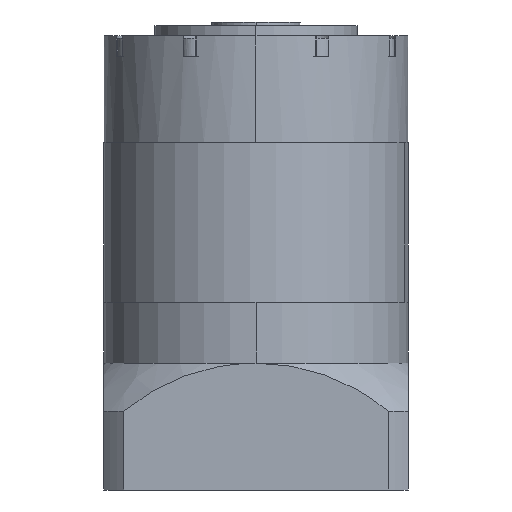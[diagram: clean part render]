
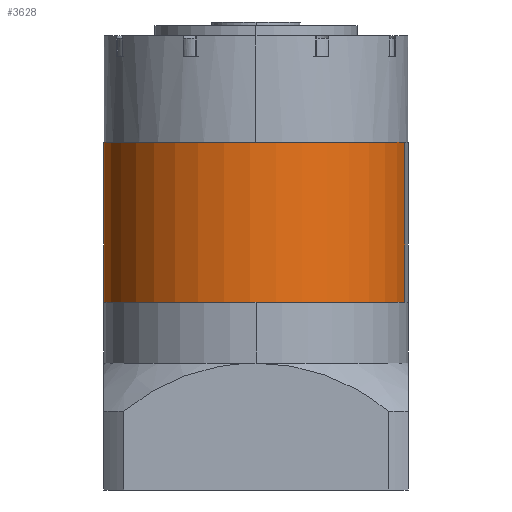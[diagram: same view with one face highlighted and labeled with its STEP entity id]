
A CAD part, left-side view. The second image highlights one B-rep face of the part: STEP entity #3628.
In plain terms, the highlighted cylindrical face has radius 60 mm (diameter 120 mm), a partial arc.
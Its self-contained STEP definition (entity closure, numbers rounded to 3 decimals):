
#611 = ORIENTED_EDGE ( 'NONE', *, *, #33504, .T. ) ;
#801 = LINE ( 'NONE', #33968, #9340 ) ;
#2424 = CARTESIAN_POINT ( 'NONE',  ( 0., 60., -31.5 ) ) ;
#3628 = ADVANCED_FACE ( 'NONE', ( #17617 ), #16620, .T. ) ;
#4987 = CARTESIAN_POINT ( 'NONE',  ( 0., 60., 31.5 ) ) ;
#5732 = DIRECTION ( 'NONE',  ( 0., 0., -1. ) ) ;
#8474 = ORIENTED_EDGE ( 'NONE', *, *, #39772, .T. ) ;
#9340 = VECTOR ( 'NONE', #27558, 1000. ) ;
#12985 = CARTESIAN_POINT ( 'NONE',  ( 0., 0., -31.5 ) ) ;
#13035 = ORIENTED_EDGE ( 'NONE', *, *, #36342, .T. ) ;
#14549 = CARTESIAN_POINT ( 'NONE',  ( 0., 0., 31.5 ) ) ;
#16209 = DIRECTION ( 'NONE',  ( 0., 1., 0. ) ) ;
#16620 = CYLINDRICAL_SURFACE ( 'NONE', #36700, 60. ) ;
#16969 = CIRCLE ( 'NONE', #39963, 60. ) ;
#17617 = FACE_OUTER_BOUND ( 'NONE', #28290, .T. ) ;
#17745 = DIRECTION ( 'NONE',  ( 0., 1., 0. ) ) ;
#18245 = ORIENTED_EDGE ( 'NONE', *, *, #25452, .F. ) ;
#18447 = DIRECTION ( 'NONE',  ( 0., 1., 0. ) ) ;
#18901 = CIRCLE ( 'NONE', #33695, 60. ) ;
#20118 = VERTEX_POINT ( 'NONE', #2424 ) ;
#20477 = VERTEX_POINT ( 'NONE', #27532 ) ;
#24852 = CARTESIAN_POINT ( 'NONE',  ( 0., 0., 31.5 ) ) ;
#25452 = EDGE_CURVE ( 'NONE', #41419, #20118, #36537, .T. ) ;
#27532 = CARTESIAN_POINT ( 'NONE',  ( 0., -60., -31.5 ) ) ;
#27558 = DIRECTION ( 'NONE',  ( 0., 0., -1. ) ) ;
#28091 = VECTOR ( 'NONE', #37703, 1000. ) ;
#28290 = EDGE_LOOP ( 'NONE', ( #8474, #13035, #611, #18245 ) ) ;
#32848 = CARTESIAN_POINT ( 'NONE',  ( 0., -60., 31.5 ) ) ;
#33504 = EDGE_CURVE ( 'NONE', #20477, #20118, #16969, .T. ) ;
#33695 = AXIS2_PLACEMENT_3D ( 'NONE', #14549, #36863, #17745 ) ;
#33968 = CARTESIAN_POINT ( 'NONE',  ( 0., -60., 31.5 ) ) ;
#34474 = CARTESIAN_POINT ( 'NONE',  ( 0., 60., 31.5 ) ) ;
#35287 = DIRECTION ( 'NONE',  ( 0., 0., 1. ) ) ;
#36342 = EDGE_CURVE ( 'NONE', #39637, #20477, #801, .T. ) ;
#36537 = LINE ( 'NONE', #34474, #28091 ) ;
#36700 = AXIS2_PLACEMENT_3D ( 'NONE', #24852, #5732, #18447 ) ;
#36863 = DIRECTION ( 'NONE',  ( 0., 0., -1. ) ) ;
#37703 = DIRECTION ( 'NONE',  ( 0., 0., -1. ) ) ;
#39637 = VERTEX_POINT ( 'NONE', #32848 ) ;
#39772 = EDGE_CURVE ( 'NONE', #41419, #39637, #18901, .T. ) ;
#39963 = AXIS2_PLACEMENT_3D ( 'NONE', #12985, #35287, #16209 ) ;
#41419 = VERTEX_POINT ( 'NONE', #4987 ) ;
